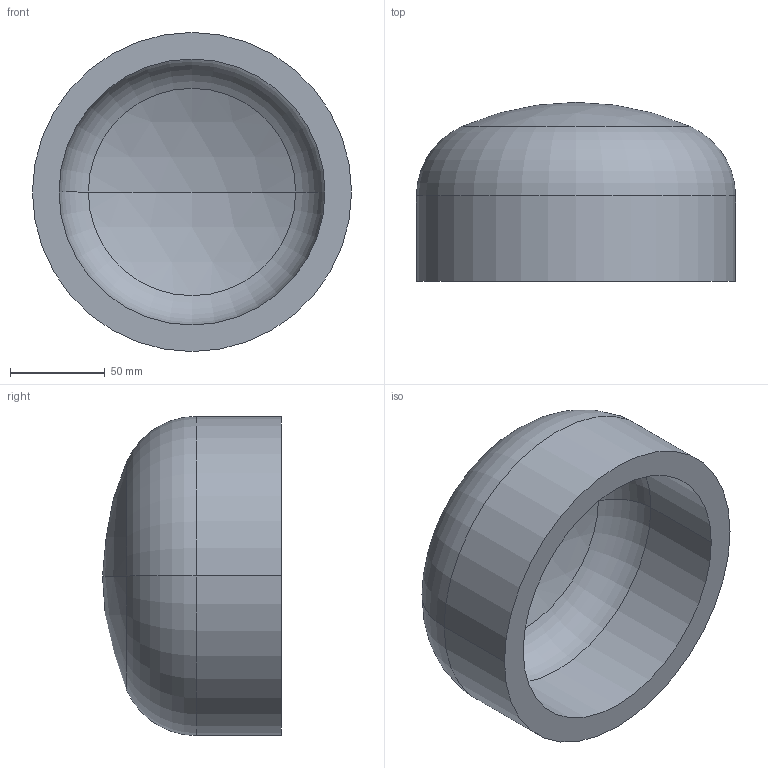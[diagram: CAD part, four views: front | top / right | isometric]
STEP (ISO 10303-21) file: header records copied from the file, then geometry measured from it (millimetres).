
FILE_DESCRIPTION (( 'STEP AP203' ), '1' );
FILE_NAME ('DIN 28013 Korbbogenform_-_Boden DIN 28013 - 168,3 x 45 - I - s=14.step', '2016-07-01T07:41:45', ( '' ), ( '' ), 'SwSTEP 2.0', 'SolidWorks 2013', '' );
FILE_SCHEMA (( 'CONFIG_CONTROL_DESIGN' ));
Length unit declared in the file: millimetre
Products named in the file (1): DIN 28013 Korbbogenform_-_Boden DIN 28013 - 168,3 x 45 - I - s=14
Bounding box: 168.3 x 94.34 x 168.3 mm (x, y, z)
Volume: 694292.3 mm3; surface area: 106381.6 mm2
Topology: 1 solids, 1 shells, 13 faces, 24 edges, 14 vertices
Faces by surface type: torus 4, cylinder 4, sphere 4, plane 1
Entity records: 407 total; most frequent: DIRECTION 72, CARTESIAN_POINT 52, ORIENTED_EDGE 48, AXIS2_PLACEMENT_3D 34, EDGE_CURVE 24, CIRCLE 20, VERTEX_POINT 14, EDGE_LOOP 14
